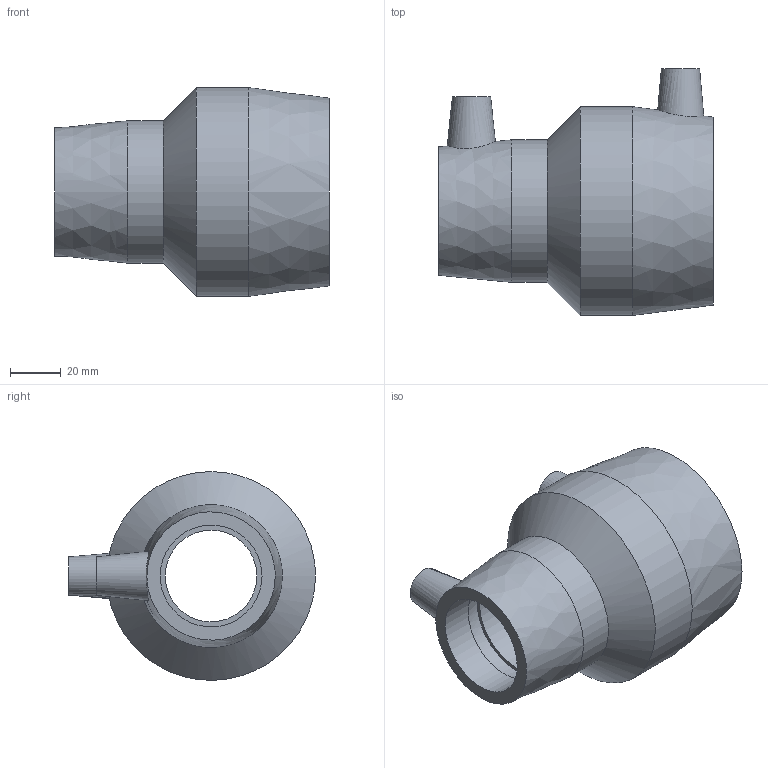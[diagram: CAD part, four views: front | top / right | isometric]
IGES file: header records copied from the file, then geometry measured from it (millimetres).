
Global section: file name: 491104063040; native system: Autodesk Inventor 2019; preprocessor: unknown; author: KIM; date: 20220629.142527; units: millimetre
Bounding box: 108 x 97 x 81.99 mm (x, y, z)
Volume: 174394.5 mm3; surface area: 49122.8 mm2
Topology: 1 solids, 1 shells, 31 faces, 72 edges, 53 vertices
Faces by surface type: bspline 31
